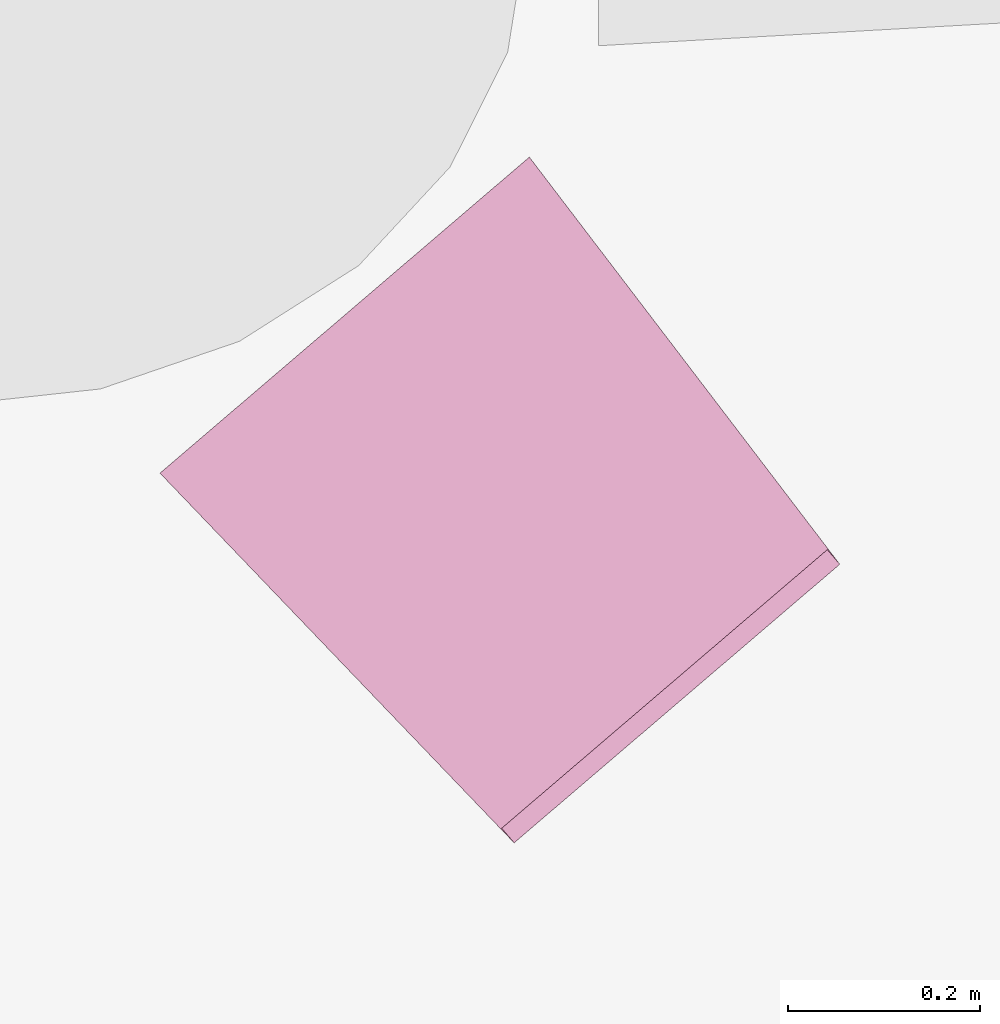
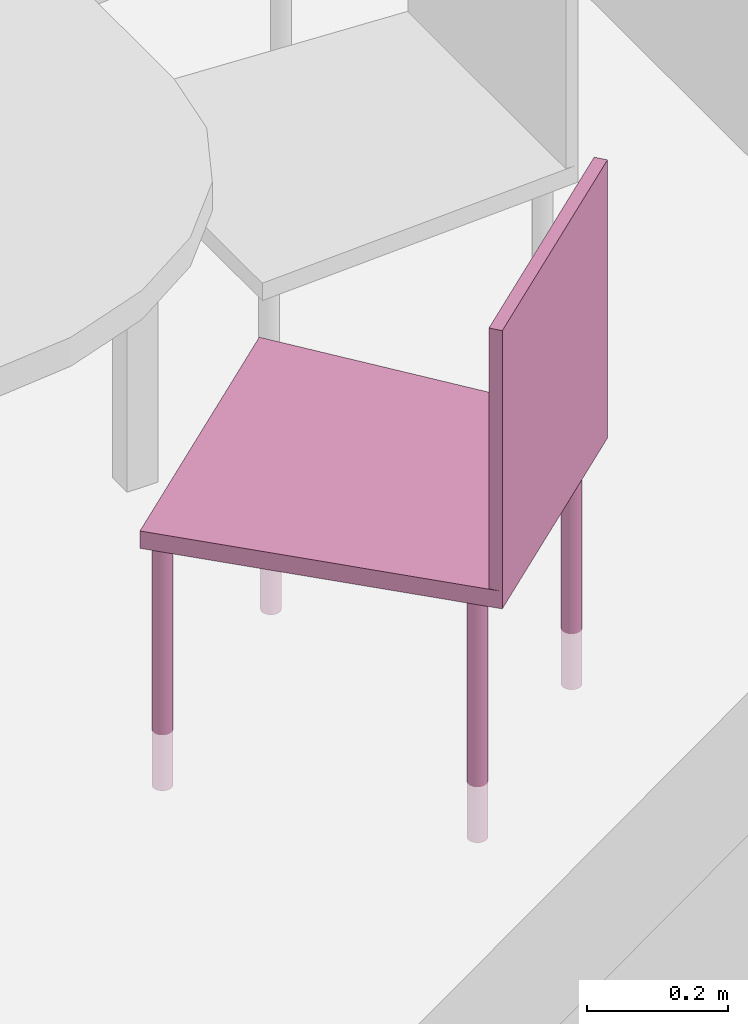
"""IFC4 building model written with IfcOpenShell, lengths in metres."""

from ifc_helpers import new_model, entity, si_unit, converted_unit, derived_unit, frame, origin, place, context, subcontext, project, spatial, faceted_brep, element, save


model = new_model("IFC4")

# Units and contexts
model_context = context("Model", 3, precision=1e-05, world=origin())
body_context = subcontext(model_context, "Body", "Model", "MODEL_VIEW")
ifc_project = project(units=[si_unit("LENGTHUNIT", "METRE"), si_unit("AREAUNIT", "SQUARE_METRE"), si_unit("VOLUMEUNIT", "CUBIC_METRE"), si_unit("MASSUNIT", "GRAM", prefix="KILO"), converted_unit("PLANEANGLEUNIT", "DEGREE", entity("IfcPlaneAngleMeasure", 0.0174532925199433), si_unit("PLANEANGLEUNIT", "RADIAN"), dimensions=[0, 0, 0, 0, 0, 0, 0]), derived_unit("THERMALTRANSMITTANCEUNIT", [(si_unit("POWERUNIT", "WATT"), 1), (si_unit("THERMODYNAMICTEMPERATUREUNIT", "KELVIN"), -1), (si_unit("LENGTHUNIT", "METRE"), -2)]), derived_unit("VOLUMETRICFLOWRATEUNIT", [(si_unit("LENGTHUNIT", "METRE"), 3), (converted_unit("TIMEUNIT", "hour", entity("IfcTimeMeasure", 3600.0), si_unit("TIMEUNIT", "SECOND"), dimensions=[0, 0, 1, 0, 0, 0, 0]), -1), (si_unit("LENGTHUNIT", "METRE"), -1)])], contexts=[model_context])

# Building, storeys
building_placement = place(None, origin())
building = spatial("IfcBuilding", under=ifc_project, at=building_placement, Name="HABITATGE PLURIFAMILIAR", CompositionType="ELEMENT")
storey_1_placement = place(building_placement, frame((0.0, 0.0, 15.28)))
storey_1 = spatial("IfcBuildingStorey", under=building, at=storey_1_placement, Name="PLANTA QUARTA", CompositionType="ELEMENT", Elevation=15.28)
storey_2_placement = place(storey_1_placement, frame((0.0, 0.0, 12.27)))
storey_2 = spatial("IfcBuildingStorey", under=storey_1, at=storey_2_placement, Name="NOU", CompositionType="PARTIAL")

# Furniture
furniture_placement = place(storey_2_placement, frame((402.879765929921, 24.2845500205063, -12.3673852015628)))
element("IfcFurniture", 1, at=furniture_placement, inside=storey_2, Name="Cadira confident_P4", context=body_context, shape_type="Brep", body=[
    faceted_brep([(0.0250127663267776, 0.393243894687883, 0.0), (0.0231891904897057, 0.391385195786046, 0.0), (0.0217160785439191, 0.389238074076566, 0.0), (0.0206381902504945, 0.386867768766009, 0.0), (0.0199882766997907, 0.384346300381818, 0.0), (0.0197860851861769, 0.381750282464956, 0.0), (0.0200377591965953, 0.379158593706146, 0.0), (0.020735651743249, 0.376649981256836, 0.0), (0.021858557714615, 0.374300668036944, 0.0), (0.0233723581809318, 0.372182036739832, 0.0), (0.0252310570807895, 0.370358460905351, 0.0), (0.0273781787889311, 0.368885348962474, 0.0), (0.0297484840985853, 0.367807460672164, 0.0), (0.0322699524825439, 0.367157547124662, 0.0), (0.03486597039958, 0.366955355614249, 0.0), (0.0374576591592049, 0.367207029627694, 0.0), (0.0399662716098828, 0.367904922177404, 0.0), (0.0423155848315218, 0.369027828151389, 0.0), (0.0444342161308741, 0.370541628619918, 0.0), (0.0462577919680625, 0.372400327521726, 0.0), (0.0477309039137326, 0.374547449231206, 0.0), (0.0488087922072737, 0.376917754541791, 0.0), (0.0494587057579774, 0.379439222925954, 0.0), (0.0496608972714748, 0.382035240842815, 0.0), (0.0494092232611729, 0.384626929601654, 0.0), (0.0487113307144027, 0.387135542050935, 0.0), (0.0475884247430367, 0.389484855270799, 0.0), (0.0460746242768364, 0.391603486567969, 0.0), (0.0442159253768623, 0.393427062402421, 0.0), (0.0420688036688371, 0.394900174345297, 0.0), (0.0396984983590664, 0.395978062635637, 0.0), (0.0371770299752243, 0.39662797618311, 0.0), (0.0345810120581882, 0.396830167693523, 0.0), (0.0319893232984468, 0.396578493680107, 0.0), (0.0294807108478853, 0.395880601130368, 0.0), (0.0271313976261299, 0.394757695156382, 0.0), (0.0250127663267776, 0.393243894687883, 0.448281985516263), (0.0271313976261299, 0.394757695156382, 0.448281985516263), (0.0294807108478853, 0.395880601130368, 0.448281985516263), (0.0319893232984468, 0.396578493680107, 0.448281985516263), (0.0345810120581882, 0.396830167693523, 0.448281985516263), (0.0371770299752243, 0.39662797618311, 0.448281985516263), (0.0396984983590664, 0.395978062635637, 0.448281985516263), (0.0420688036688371, 0.394900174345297, 0.448281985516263), (0.0442159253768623, 0.393427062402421, 0.448281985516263), (0.0460746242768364, 0.391603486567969, 0.448281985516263), (0.0475884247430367, 0.389484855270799, 0.448281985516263), (0.0487113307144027, 0.387135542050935, 0.448281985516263), (0.0494092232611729, 0.384626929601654, 0.448281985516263), (0.0496608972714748, 0.382035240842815, 0.448281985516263), (0.0494587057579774, 0.379439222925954, 0.448281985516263), (0.0488087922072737, 0.376917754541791, 0.448281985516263), (0.0477309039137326, 0.374547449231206, 0.448281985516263), (0.0462577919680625, 0.372400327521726, 0.448281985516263), (0.0444342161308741, 0.370541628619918, 0.448281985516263), (0.0423155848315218, 0.369027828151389, 0.448281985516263), (0.0399662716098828, 0.367904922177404, 0.448281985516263), (0.0374576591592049, 0.367207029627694, 0.448281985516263), (0.03486597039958, 0.366955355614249, 0.448281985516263), (0.0322699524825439, 0.367157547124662, 0.448281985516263), (0.0297484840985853, 0.367807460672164, 0.448281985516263), (0.0273781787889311, 0.368885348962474, 0.448281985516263), (0.0252310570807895, 0.370358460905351, 0.448281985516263), (0.0233723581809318, 0.372182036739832, 0.448281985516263), (0.021858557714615, 0.374300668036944, 0.448281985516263), (0.020735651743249, 0.376649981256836, 0.448281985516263), (0.0200377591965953, 0.379158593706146, 0.448281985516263), (0.0197860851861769, 0.381750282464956, 0.448281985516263), (0.0199882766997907, 0.384346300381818, 0.448281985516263), (0.0206381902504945, 0.386867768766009, 0.448281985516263), (0.0217160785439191, 0.389238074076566, 0.448281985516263), (0.0231891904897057, 0.391385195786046, 0.448281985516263)], [[[0, 1, 2, 3, 4, 5, 6, 7, 8, 9, 10, 11, 12, 13, 14, 15, 16, 17, 18, 19, 20, 21, 22, 23, 24, 25, 26, 27, 28, 29, 30, 31, 32, 33, 34, 35]], [[36, 37, 38, 39, 40, 41, 42, 43, 44, 45, 46, 47, 48, 49, 50, 51, 52, 53, 54, 55, 56, 57, 58, 59, 60, 61, 62, 63, 64, 65, 66, 67, 68, 69, 70, 71]], [[35, 37, 36, 0]], [[34, 38, 37, 35]], [[33, 39, 38, 34]], [[32, 40, 39, 33]], [[31, 41, 40, 32]], [[30, 42, 41, 31]], [[29, 43, 42, 30]], [[28, 44, 43, 29]], [[27, 45, 44, 28]], [[26, 46, 45, 27]], [[25, 47, 46, 26]], [[24, 48, 47, 25]], [[23, 49, 48, 24]], [[22, 50, 49, 23]], [[21, 51, 50, 22]], [[20, 52, 51, 21]], [[19, 53, 52, 20]], [[18, 54, 53, 19]], [[17, 55, 54, 18]], [[16, 56, 55, 17]], [[15, 57, 56, 16]], [[14, 58, 57, 15]], [[13, 59, 58, 14]], [[12, 60, 59, 13]], [[11, 61, 60, 12]], [[10, 62, 61, 11]], [[9, 63, 62, 10]], [[8, 64, 63, 9]], [[7, 65, 64, 8]], [[6, 66, 65, 7]], [[5, 67, 66, 6]], [[4, 68, 67, 5]], [[3, 69, 68, 4]], [[2, 70, 69, 3]], [[1, 71, 70, 2]], [[0, 36, 71, 1]]], orient=[[False], [False], [False], [False], [False], [False], [False], [False], [False], [False], [False], [False], [False], [False], [False], [False], [False], [False], [False], [False], [False], [False], [False], [False], [False], [False], [False], [False], [False], [False], [False], [False], [False], [False], [False], [False], [False], [False]]),
    faceted_brep([(0.346608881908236, 0.0598371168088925, 0.0), (0.344785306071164, 0.0579784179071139, 0.0), (0.343312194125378, 0.0558312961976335, 0.0), (0.342234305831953, 0.053460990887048, 0.0), (0.341584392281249, 0.0509395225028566, 0.0), (0.341382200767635, 0.0483435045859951, 0.0), (0.341633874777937, 0.0457518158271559, 0.0), (0.342331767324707, 0.043243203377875, 0.0), (0.343454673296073, 0.0408938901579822, 0.0), (0.344968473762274, 0.038775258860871, 0.0), (0.346827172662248, 0.0369516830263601, 0.0), (0.34897429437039, 0.035478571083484, 0.0), (0.351344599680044, 0.0344006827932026, 0.0), (0.353866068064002, 0.0337507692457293, 0.0), (0.356462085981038, 0.0335485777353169, 0.0), (0.359053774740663, 0.033800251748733, 0.0), (0.361562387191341, 0.0344981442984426, 0.0), (0.36391170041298, 0.035621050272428, 0.0), (0.366030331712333, 0.0371348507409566, 0.0), (0.367853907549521, 0.0389935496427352, 0.0), (0.369327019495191, 0.0411406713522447, 0.0), (0.370404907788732, 0.0435109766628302, 0.0), (0.371054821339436, 0.0460324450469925, 0.0), (0.371257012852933, 0.0486284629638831, 0.0), (0.371005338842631, 0.0512201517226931, 0.0), (0.370307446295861, 0.053728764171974, 0.0), (0.369184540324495, 0.0560780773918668, 0.0), (0.367670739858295, 0.0581967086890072, 0.0), (0.365812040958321, 0.060020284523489, 0.0), (0.363664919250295, 0.0614933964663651, 0.0), (0.361294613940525, 0.0625712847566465, 0.0), (0.358773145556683, 0.0632211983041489, 0.0), (0.35617712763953, 0.0634233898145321, 0.0), (0.353585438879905, 0.0631717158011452, 0.0), (0.351076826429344, 0.0624738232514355, 0.0), (0.348727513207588, 0.0613509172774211, 0.0), (0.346608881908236, 0.0598371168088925, 0.448281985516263), (0.348727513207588, 0.0613509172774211, 0.448281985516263), (0.351076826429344, 0.0624738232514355, 0.448281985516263), (0.353585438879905, 0.0631717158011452, 0.448281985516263), (0.35617712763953, 0.0634233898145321, 0.448281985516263), (0.358773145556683, 0.0632211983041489, 0.448281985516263), (0.361294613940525, 0.0625712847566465, 0.448281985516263), (0.363664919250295, 0.0614933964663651, 0.448281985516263), (0.365812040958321, 0.060020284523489, 0.448281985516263), (0.367670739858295, 0.0581967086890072, 0.448281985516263), (0.369184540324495, 0.0560780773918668, 0.448281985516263), (0.370307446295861, 0.053728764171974, 0.448281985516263), (0.371005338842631, 0.0512201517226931, 0.448281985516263), (0.371257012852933, 0.0486284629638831, 0.448281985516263), (0.371054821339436, 0.0460324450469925, 0.448281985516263), (0.370404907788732, 0.0435109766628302, 0.448281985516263), (0.369327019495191, 0.0411406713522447, 0.448281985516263), (0.367853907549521, 0.0389935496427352, 0.448281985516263), (0.366030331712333, 0.0371348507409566, 0.448281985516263), (0.36391170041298, 0.035621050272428, 0.448281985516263), (0.361562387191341, 0.0344981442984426, 0.448281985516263), (0.359053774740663, 0.033800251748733, 0.448281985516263), (0.356462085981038, 0.0335485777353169, 0.448281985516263), (0.353866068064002, 0.0337507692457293, 0.448281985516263), (0.351344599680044, 0.0344006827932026, 0.448281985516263), (0.34897429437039, 0.035478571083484, 0.448281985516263), (0.346827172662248, 0.0369516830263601, 0.448281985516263), (0.344968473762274, 0.038775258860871, 0.448281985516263), (0.343454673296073, 0.0408938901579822, 0.448281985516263), (0.342331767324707, 0.043243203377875, 0.448281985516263), (0.341633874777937, 0.0457518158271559, 0.448281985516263), (0.341382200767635, 0.0483435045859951, 0.448281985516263), (0.341584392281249, 0.0509395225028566, 0.448281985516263), (0.342234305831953, 0.053460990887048, 0.448281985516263), (0.343312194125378, 0.0558312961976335, 0.448281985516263), (0.344785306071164, 0.0579784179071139, 0.448281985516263)], [[[0, 1, 2, 3, 4, 5, 6, 7, 8, 9, 10, 11, 12, 13, 14, 15, 16, 17, 18, 19, 20, 21, 22, 23, 24, 25, 26, 27, 28, 29, 30, 31, 32, 33, 34, 35]], [[36, 37, 38, 39, 40, 41, 42, 43, 44, 45, 46, 47, 48, 49, 50, 51, 52, 53, 54, 55, 56, 57, 58, 59, 60, 61, 62, 63, 64, 65, 66, 67, 68, 69, 70, 71]], [[35, 37, 36, 0]], [[34, 38, 37, 35]], [[33, 39, 38, 34]], [[32, 40, 39, 33]], [[31, 41, 40, 32]], [[30, 42, 41, 31]], [[29, 43, 42, 30]], [[28, 44, 43, 29]], [[27, 45, 44, 28]], [[26, 46, 45, 27]], [[25, 47, 46, 26]], [[24, 48, 47, 25]], [[23, 49, 48, 24]], [[22, 50, 49, 23]], [[21, 51, 50, 22]], [[20, 52, 51, 21]], [[19, 53, 52, 20]], [[18, 54, 53, 19]], [[17, 55, 54, 18]], [[16, 56, 55, 17]], [[15, 57, 56, 16]], [[14, 58, 57, 15]], [[13, 59, 58, 14]], [[12, 60, 59, 13]], [[11, 61, 60, 12]], [[10, 62, 61, 11]], [[9, 63, 62, 10]], [[8, 64, 63, 9]], [[7, 65, 64, 8]], [[6, 66, 65, 7]], [[5, 67, 66, 6]], [[4, 68, 67, 5]], [[3, 69, 68, 4]], [[2, 70, 69, 3]], [[1, 71, 70, 2]], [[0, 36, 71, 1]]], orient=[[False], [False], [False], [False], [False], [False], [False], [False], [False], [False], [False], [False], [False], [False], [False], [False], [False], [False], [False], [False], [False], [False], [False], [False], [False], [False], [False], [False], [False], [False], [False], [False], [False], [False], [False], [False], [False], [False]]),
    faceted_brep([(0.374556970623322, 0.692273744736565, 0.0), (0.37273339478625, 0.690415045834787, 0.0), (0.371260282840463, 0.688267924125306, 0.0), (0.370182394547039, 0.685897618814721, 0.0), (0.369532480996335, 0.683376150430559, 0.0), (0.369330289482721, 0.680780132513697, 0.0), (0.369581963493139, 0.678188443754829, 0.0), (0.37027985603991, 0.675679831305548, 0.0), (0.371402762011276, 0.673330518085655, 0.0), (0.37291656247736, 0.671211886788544, 0.0), (0.374775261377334, 0.669388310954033, 0.0), (0.376922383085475, 0.667915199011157, 0.0), (0.37929268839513, 0.666837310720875, 0.0), (0.381814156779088, 0.666187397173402, 0.0), (0.384410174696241, 0.66598520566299, 0.0), (0.387001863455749, 0.666236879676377, 0.0), (0.389510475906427, 0.666934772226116, 0.0), (0.391859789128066, 0.668057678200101, 0.0), (0.393978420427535, 0.669571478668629, 0.0), (0.395801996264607, 0.671430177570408, 0.0), (0.397275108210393, 0.673577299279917, 0.0), (0.398352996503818, 0.675947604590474, 0.0), (0.399002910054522, 0.678469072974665, 0.0), (0.399205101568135, 0.681065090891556, 0.0), (0.398953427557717, 0.683656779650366, 0.0), (0.398255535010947, 0.686165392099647, 0.0), (0.397132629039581, 0.68851470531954, 0.0), (0.395618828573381, 0.69063333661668, 0.0), (0.393760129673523, 0.692456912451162, 0.0), (0.391613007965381, 0.693930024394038, 0.0), (0.389242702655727, 0.695007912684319, 0.0), (0.386721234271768, 0.695657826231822, 0.0), (0.384125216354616, 0.695860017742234, 0.0), (0.381533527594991, 0.695608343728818, 0.0), (0.37902491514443, 0.694910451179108, 0.0), (0.376675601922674, 0.693787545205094, 0.0), (0.374556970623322, 0.692273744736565, 0.448281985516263), (0.376675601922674, 0.693787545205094, 0.448281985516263), (0.37902491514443, 0.694910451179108, 0.448281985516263), (0.381533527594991, 0.695608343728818, 0.448281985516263), (0.384125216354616, 0.695860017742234, 0.448281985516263), (0.386721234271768, 0.695657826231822, 0.448281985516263), (0.389242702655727, 0.695007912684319, 0.448281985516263), (0.391613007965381, 0.693930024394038, 0.448281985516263), (0.393760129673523, 0.692456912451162, 0.448281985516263), (0.395618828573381, 0.69063333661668, 0.448281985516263), (0.397132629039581, 0.68851470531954, 0.448281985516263), (0.398255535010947, 0.686165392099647, 0.448281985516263), (0.398953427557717, 0.683656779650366, 0.448281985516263), (0.399205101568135, 0.681065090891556, 0.448281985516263), (0.399002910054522, 0.678469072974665, 0.448281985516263), (0.398352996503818, 0.675947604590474, 0.448281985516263), (0.397275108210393, 0.673577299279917, 0.448281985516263), (0.395801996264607, 0.671430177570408, 0.448281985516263), (0.393978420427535, 0.669571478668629, 0.448281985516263), (0.391859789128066, 0.668057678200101, 0.448281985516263), (0.389510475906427, 0.666934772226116, 0.448281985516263), (0.387001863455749, 0.666236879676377, 0.448281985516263), (0.384410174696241, 0.66598520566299, 0.448281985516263), (0.381814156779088, 0.666187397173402, 0.448281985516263), (0.37929268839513, 0.666837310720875, 0.448281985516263), (0.376922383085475, 0.667915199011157, 0.448281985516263), (0.374775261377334, 0.669388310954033, 0.448281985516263), (0.37291656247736, 0.671211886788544, 0.448281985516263), (0.371402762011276, 0.673330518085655, 0.448281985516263), (0.37027985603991, 0.675679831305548, 0.448281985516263), (0.369581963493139, 0.678188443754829, 0.448281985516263), (0.369330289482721, 0.680780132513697, 0.448281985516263), (0.369532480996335, 0.683376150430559, 0.448281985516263), (0.370182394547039, 0.685897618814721, 0.448281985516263), (0.371260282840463, 0.688267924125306, 0.448281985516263), (0.37273339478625, 0.690415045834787, 0.448281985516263)], [[[0, 1, 2, 3, 4, 5, 6, 7, 8, 9, 10, 11, 12, 13, 14, 15, 16, 17, 18, 19, 20, 21, 22, 23, 24, 25, 26, 27, 28, 29, 30, 31, 32, 33, 34, 35]], [[36, 37, 38, 39, 40, 41, 42, 43, 44, 45, 46, 47, 48, 49, 50, 51, 52, 53, 54, 55, 56, 57, 58, 59, 60, 61, 62, 63, 64, 65, 66, 67, 68, 69, 70, 71]], [[35, 37, 36, 0]], [[34, 38, 37, 35]], [[33, 39, 38, 34]], [[32, 40, 39, 33]], [[31, 41, 40, 32]], [[30, 42, 41, 31]], [[29, 43, 42, 30]], [[28, 44, 43, 29]], [[27, 45, 44, 28]], [[26, 46, 45, 27]], [[25, 47, 46, 26]], [[24, 48, 47, 25]], [[23, 49, 48, 24]], [[22, 50, 49, 23]], [[21, 51, 50, 22]], [[20, 52, 51, 21]], [[19, 53, 52, 20]], [[18, 54, 53, 19]], [[17, 55, 54, 18]], [[16, 56, 55, 17]], [[15, 57, 56, 16]], [[14, 58, 57, 15]], [[13, 59, 58, 14]], [[12, 60, 59, 13]], [[11, 61, 60, 12]], [[10, 62, 61, 11]], [[9, 63, 62, 10]], [[8, 64, 63, 9]], [[7, 65, 64, 8]], [[6, 66, 65, 7]], [[5, 67, 66, 6]], [[4, 68, 67, 5]], [[3, 69, 68, 4]], [[2, 70, 69, 3]], [[1, 71, 70, 2]], [[0, 36, 71, 1]]], orient=[[False], [False], [False], [False], [False], [False], [False], [False], [False], [False], [False], [False], [False], [False], [False], [False], [False], [False], [False], [False], [False], [False], [False], [False], [False], [False], [False], [False], [False], [False], [False], [False], [False], [False], [False], [False], [False], [False]]),
    faceted_brep([(0.650560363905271, 0.319863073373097, 0.0), (0.6487367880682, 0.318004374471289, 0.0), (0.647263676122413, 0.315857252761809, 0.0), (0.646185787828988, 0.313486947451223, 0.0), (0.645535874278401, 0.310965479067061, 0.0), (0.645333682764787, 0.3083694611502, 0.0), (0.645585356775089, 0.30577777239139, 0.0), (0.646283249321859, 0.30326915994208, 0.0), (0.647406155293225, 0.300919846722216, 0.0), (0.648919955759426, 0.298801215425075, 0.0), (0.6507786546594, 0.296977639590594, 0.0), (0.652925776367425, 0.295504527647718, 0.0), (0.655296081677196, 0.294426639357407, 0.0), (0.657817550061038, 0.293776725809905, 0.0), (0.66041356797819, 0.293574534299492, 0.0), (0.663005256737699, 0.293826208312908, 0.0), (0.665513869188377, 0.294524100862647, 0.0), (0.667863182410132, 0.295647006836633, 0.0), (0.669981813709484, 0.297160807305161, 0.0), (0.671805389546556, 0.299019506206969, 0.0), (0.673278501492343, 0.301166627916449, 0.0), (0.674356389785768, 0.303536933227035, 0.0), (0.675006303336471, 0.306058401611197, 0.0), (0.675208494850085, 0.308654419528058, 0.0), (0.674956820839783, 0.311246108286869, 0.0), (0.674258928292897, 0.313754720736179, 0.0), (0.673136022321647, 0.316104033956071, 0.0), (0.67162222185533, 0.318222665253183, 0.0), (0.669763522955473, 0.320046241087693, 0.0), (0.667616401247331, 0.32151935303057, 0.0), (0.665246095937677, 0.322597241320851, 0.0), (0.662724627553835, 0.323247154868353, 0.0), (0.660128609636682, 0.323449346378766, 0.0), (0.657536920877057, 0.32319767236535, 0.0), (0.655028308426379, 0.32249977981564, 0.0), (0.652678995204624, 0.321376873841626, 0.0), (0.650560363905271, 0.319863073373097, 0.448281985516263), (0.652678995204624, 0.321376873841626, 0.448281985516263), (0.655028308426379, 0.32249977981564, 0.448281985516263), (0.657536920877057, 0.32319767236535, 0.448281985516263), (0.660128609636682, 0.323449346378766, 0.448281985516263), (0.662724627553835, 0.323247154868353, 0.448281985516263), (0.665246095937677, 0.322597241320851, 0.448281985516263), (0.667616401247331, 0.32151935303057, 0.448281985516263), (0.669763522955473, 0.320046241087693, 0.448281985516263), (0.67162222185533, 0.318222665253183, 0.448281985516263), (0.673136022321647, 0.316104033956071, 0.448281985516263), (0.674258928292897, 0.313754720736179, 0.448281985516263), (0.674956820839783, 0.311246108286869, 0.448281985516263), (0.675208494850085, 0.308654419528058, 0.448281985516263), (0.675006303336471, 0.306058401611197, 0.448281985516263), (0.674356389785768, 0.303536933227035, 0.448281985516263), (0.673278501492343, 0.301166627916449, 0.448281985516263), (0.671805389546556, 0.299019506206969, 0.448281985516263), (0.669981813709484, 0.297160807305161, 0.448281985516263), (0.667863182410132, 0.295647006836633, 0.448281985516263), (0.665513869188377, 0.294524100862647, 0.448281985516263), (0.663005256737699, 0.293826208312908, 0.448281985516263), (0.66041356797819, 0.293574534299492, 0.448281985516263), (0.657817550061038, 0.293776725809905, 0.448281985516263), (0.655296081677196, 0.294426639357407, 0.448281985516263), (0.652925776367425, 0.295504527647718, 0.448281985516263), (0.6507786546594, 0.296977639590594, 0.448281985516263), (0.648919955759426, 0.298801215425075, 0.448281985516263), (0.647406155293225, 0.300919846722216, 0.448281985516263), (0.646283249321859, 0.30326915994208, 0.448281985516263), (0.645585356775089, 0.30577777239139, 0.448281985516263), (0.645333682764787, 0.3083694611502, 0.448281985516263), (0.645535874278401, 0.310965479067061, 0.448281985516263), (0.646185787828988, 0.313486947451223, 0.448281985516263), (0.647263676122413, 0.315857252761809, 0.448281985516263), (0.6487367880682, 0.318004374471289, 0.448281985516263)], [[[0, 1, 2, 3, 4, 5, 6, 7, 8, 9, 10, 11, 12, 13, 14, 15, 16, 17, 18, 19, 20, 21, 22, 23, 24, 25, 26, 27, 28, 29, 30, 31, 32, 33, 34, 35]], [[36, 37, 38, 39, 40, 41, 42, 43, 44, 45, 46, 47, 48, 49, 50, 51, 52, 53, 54, 55, 56, 57, 58, 59, 60, 61, 62, 63, 64, 65, 66, 67, 68, 69, 70, 71]], [[35, 37, 36, 0]], [[34, 38, 37, 35]], [[33, 39, 38, 34]], [[32, 40, 39, 33]], [[31, 41, 40, 32]], [[30, 42, 41, 31]], [[29, 43, 42, 30]], [[28, 44, 43, 29]], [[27, 45, 44, 28]], [[26, 46, 45, 27]], [[25, 47, 46, 26]], [[24, 48, 47, 25]], [[23, 49, 48, 24]], [[22, 50, 49, 23]], [[21, 51, 50, 22]], [[20, 52, 51, 21]], [[19, 53, 52, 20]], [[18, 54, 53, 19]], [[17, 55, 54, 18]], [[16, 56, 55, 17]], [[15, 57, 56, 16]], [[14, 58, 57, 15]], [[13, 59, 58, 14]], [[12, 60, 59, 13]], [[11, 61, 60, 12]], [[10, 62, 61, 11]], [[9, 63, 62, 10]], [[8, 64, 63, 9]], [[7, 65, 64, 8]], [[6, 66, 65, 7]], [[5, 67, 66, 6]], [[4, 68, 67, 5]], [[3, 69, 68, 4]], [[2, 70, 69, 3]], [[1, 71, 70, 2]], [[0, 36, 71, 1]]], orient=[[False], [False], [False], [False], [False], [False], [False], [False], [False], [False], [False], [False], [False], [False], [False], [False], [False], [False], [False], [False], [False], [False], [False], [False], [False], [False], [False], [False], [False], [False], [False], [False], [False], [False], [False], [False], [False], [False]]),
    faceted_brep([(0.708323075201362, 0.290263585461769, 0.418281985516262), (0.384889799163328, 0.714482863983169, 0.418281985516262), (0.0, 0.385215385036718, 0.418281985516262), (0.36902599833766, 0.0, 0.418281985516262), (0.384889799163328, 0.714482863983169, 0.44828198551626), (0.708323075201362, 0.290263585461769, 0.44828198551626), (0.36902599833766, 0.0, 0.44828198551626), (0.0, 0.385215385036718, 0.44828198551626)], [[[0, 1, 2, 3]], [[4, 5, 6, 7]], [[1, 0, 5, 4]], [[2, 1, 4, 7]], [[3, 2, 7, 6]], [[0, 3, 6, 5]]], orient=[[False], [False], [False], [False], [False], [False]]),
    faceted_brep([(0.695321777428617, 0.30546115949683, 0.44828198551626), (0.356024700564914, 0.0151975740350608, 0.44828198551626), (0.36902599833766, 0.0, 0.44828198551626), (0.708323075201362, 0.290263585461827, 0.44828198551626), (0.356024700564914, 0.0151975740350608, 0.898281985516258), (0.695321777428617, 0.30546115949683, 0.898281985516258), (0.708323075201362, 0.290263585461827, 0.898281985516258), (0.36902599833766, 0.0, 0.898281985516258)], [[[0, 1, 2, 3]], [[4, 5, 6, 7]], [[1, 0, 5, 4]], [[2, 1, 4, 7]], [[3, 2, 7, 6]], [[0, 3, 6, 5]]], orient=[[False], [False], [False], [False], [False], [False]]),
])

save(model, "model.ifc")
